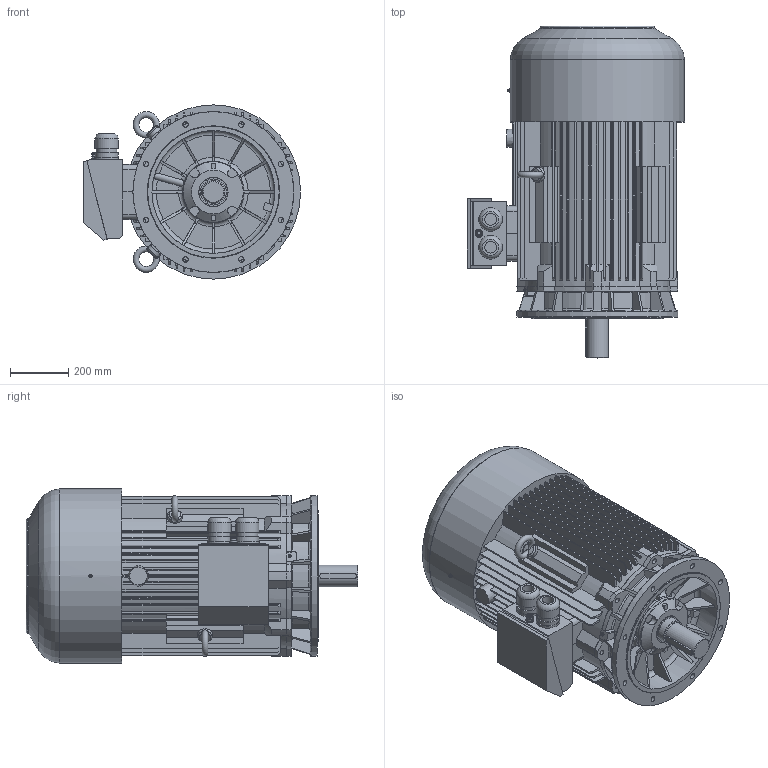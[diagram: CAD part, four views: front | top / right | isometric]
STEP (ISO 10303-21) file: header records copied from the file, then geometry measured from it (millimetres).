
FILE_DESCRIPTION(/* description */ ('Unknown'),/* implementation_level */ '2;1');
FILE_NAME(/* name */ '3SIEK280S4_8, M4_8',/* time_stamp */ '2021-04-12T13:26:49+02:00',/* author */ ('Unknown'),/* organization */ ('Unknown'),/* preprocessor_version */ 'ST-DEVELOPER v16.7',/* originating_system */ 'DEX',/* authorisation */ $);
FILE_SCHEMA (('AUTOMOTIVE_DESIGN {1 0 10303 214 3 1 1}'));
Length unit declared in the file: millimetre
Products named in the file (1): 2SIEK280 M_S4_6
Bounding box: 742.3 x 1134.98 x 596 mm (x, y, z)
Volume: 225068620 mm3; surface area: 5159020.7 mm2
Topology: 4 solids, 5 shells, 969 faces, 2703 edges, 1789 vertices
Faces by surface type: plane 570, cylinder 226, torus 92, cone 65, bspline 16
Full cylindrical faces by diameter (mm): 1.6 x2, 5 x3, 6 x2, 8.36 x1, 8.4 x1, 8.5 x1, 8.917 x1, 10 x4, 10.106 x2, 11.083 x1, 18 x8, 19 x9, 21 x1, 23 x1, 27 x1, 40 x2, 50 x2, 71.32 x2, 75 x1, 78.781 x2, 80.024 x2, 81.268 x2, 89.1 x1, 98.8 x1, 100 x1, 160 x1, 208 x1, 210 x1, 420 x1, 450 x1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
Entity records: 38923 total; most frequent: CARTESIAN_POINT 8001, ORIENTED_EDGE 5124, DIRECTION 4811, EDGE_CURVE 2562, VERTEX_POINT 1747, AXIS2_PLACEMENT_3D 1709, LINE 1393, VECTOR 1393
